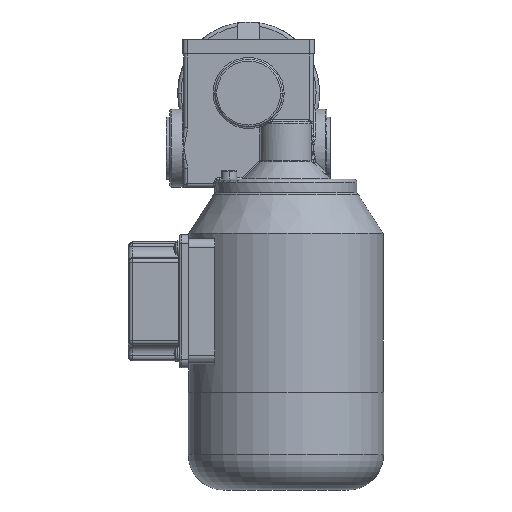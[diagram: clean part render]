
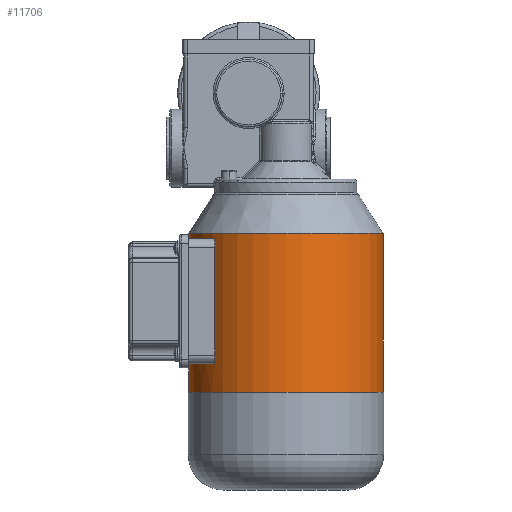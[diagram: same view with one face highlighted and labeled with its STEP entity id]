
A CAD part, left-side view. The second image highlights one B-rep face of the part: STEP entity #11706.
In plain terms, the highlighted cylindrical face has radius 54.75 mm (diameter 109.5 mm), a partial arc.
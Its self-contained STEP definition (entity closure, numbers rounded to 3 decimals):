
#201 = AXIS2_PLACEMENT_3D ( 'NONE', #26491, #17868, #13490 ) ;
#229 = VECTOR ( 'NONE', #13809, 1000. ) ;
#1415 = EDGE_CURVE ( 'NONE', #22039, #20823, #10087, .T. ) ;
#1458 = CARTESIAN_POINT ( 'NONE',  ( 71., 0., -54.75 ) ) ;
#2111 = CARTESIAN_POINT ( 'NONE',  ( 55., 0., 54.75 ) ) ;
#2238 = AXIS2_PLACEMENT_3D ( 'NONE', #5423, #28188, #3506 ) ;
#3078 = ORIENTED_EDGE ( 'NONE', *, *, #5369, .T. ) ;
#3216 = CARTESIAN_POINT ( 'NONE',  ( 144.5, 0., 54.75 ) ) ;
#3506 = DIRECTION ( 'NONE',  ( 0., 0., 1. ) ) ;
#3962 = LINE ( 'NONE', #10559, #18951 ) ;
#5369 = EDGE_CURVE ( 'NONE', #20823, #6374, #17945, .T. ) ;
#5423 = CARTESIAN_POINT ( 'NONE',  ( 55., 0., 0. ) ) ;
#5511 = CARTESIAN_POINT ( 'NONE',  ( 141.5, 37.384, -40. ) ) ;
#5657 = EDGE_LOOP ( 'NONE', ( #26221, #24831, #25477, #24786, #16775, #3078, #19221, #6390 ) ) ;
#6374 = VERTEX_POINT ( 'NONE', #12716 ) ;
#6390 = ORIENTED_EDGE ( 'NONE', *, *, #28250, .F. ) ;
#8192 = CARTESIAN_POINT ( 'NONE',  ( 27.393, 37.384, -40. ) ) ;
#8453 = EDGE_CURVE ( 'NONE', #27777, #6374, #9260, .T. ) ;
#9063 = AXIS2_PLACEMENT_3D ( 'NONE', #27890, #19553, #17217 ) ;
#9157 = DIRECTION ( 'NONE',  ( 0., -1., 0. ) ) ;
#9260 = CIRCLE ( 'NONE', #2238, 54.75 ) ;
#9924 = DIRECTION ( 'NONE',  ( 0., 0., 1. ) ) ;
#10087 = CIRCLE ( 'NONE', #27338, 54.75 ) ;
#10559 = CARTESIAN_POINT ( 'NONE',  ( 0., 0., 54.75 ) ) ;
#11706 = ADVANCED_FACE ( 'NONE', ( #14312 ), #25265, .T. ) ;
#12716 = CARTESIAN_POINT ( 'NONE',  ( 55., 0., -54.75 ) ) ;
#13490 = DIRECTION ( 'NONE',  ( 0., 0., -1. ) ) ;
#13716 = CARTESIAN_POINT ( 'NONE',  ( 0., 0., -54.75 ) ) ;
#13809 = DIRECTION ( 'NONE',  ( -1., 0., 0. ) ) ;
#14312 = FACE_OUTER_BOUND ( 'NONE', #5657, .T. ) ;
#14625 = DIRECTION ( 'NONE',  ( 1., 0., 0. ) ) ;
#15055 = LINE ( 'NONE', #8192, #23092 ) ;
#15589 = CARTESIAN_POINT ( 'NONE',  ( 71., 0., 0. ) ) ;
#15839 = AXIS2_PLACEMENT_3D ( 'NONE', #23228, #27146, #9924 ) ;
#16775 = ORIENTED_EDGE ( 'NONE', *, *, #1415, .T. ) ;
#17189 = CARTESIAN_POINT ( 'NONE',  ( 141.5, 0., -54.75 ) ) ;
#17217 = DIRECTION ( 'NONE',  ( 0., 0., 1. ) ) ;
#17868 = DIRECTION ( 'NONE',  ( 1., 0., 0. ) ) ;
#17935 = CIRCLE ( 'NONE', #9063, 54.75 ) ;
#17945 = LINE ( 'NONE', #13716, #20656 ) ;
#18036 = LINE ( 'NONE', #27383, #229 ) ;
#18786 = EDGE_CURVE ( 'NONE', #22039, #24865, #15055, .T. ) ;
#18951 = VECTOR ( 'NONE', #21229, 1000. ) ;
#19213 = EDGE_CURVE ( 'NONE', #26512, #26536, #17935, .T. ) ;
#19221 = ORIENTED_EDGE ( 'NONE', *, *, #8453, .F. ) ;
#19553 = DIRECTION ( 'NONE',  ( -1., 0., 0. ) ) ;
#19801 = EDGE_CURVE ( 'NONE', #26536, #23816, #18036, .T. ) ;
#20656 = VECTOR ( 'NONE', #24540, 1000. ) ;
#20823 = VERTEX_POINT ( 'NONE', #1458 ) ;
#21229 = DIRECTION ( 'NONE',  ( -1., 0., 0. ) ) ;
#22039 = VERTEX_POINT ( 'NONE', #25421 ) ;
#23092 = VECTOR ( 'NONE', #14625, 1000. ) ;
#23228 = CARTESIAN_POINT ( 'NONE',  ( 0., 0., 0. ) ) ;
#23816 = VERTEX_POINT ( 'NONE', #17189 ) ;
#24521 = DIRECTION ( 'NONE',  ( -1., 0., 0. ) ) ;
#24536 = CIRCLE ( 'NONE', #201, 54.75 ) ;
#24540 = DIRECTION ( 'NONE',  ( -1., 0., 0. ) ) ;
#24786 = ORIENTED_EDGE ( 'NONE', *, *, #18786, .F. ) ;
#24831 = ORIENTED_EDGE ( 'NONE', *, *, #19801, .T. ) ;
#24865 = VERTEX_POINT ( 'NONE', #5511 ) ;
#25265 = CYLINDRICAL_SURFACE ( 'NONE', #15839, 54.75 ) ;
#25421 = CARTESIAN_POINT ( 'NONE',  ( 71., 37.384, -40. ) ) ;
#25477 = ORIENTED_EDGE ( 'NONE', *, *, #26942, .T. ) ;
#25857 = CARTESIAN_POINT ( 'NONE',  ( 144.5, 0., -54.75 ) ) ;
#26221 = ORIENTED_EDGE ( 'NONE', *, *, #19213, .T. ) ;
#26491 = CARTESIAN_POINT ( 'NONE',  ( 141.5, 0., 0. ) ) ;
#26512 = VERTEX_POINT ( 'NONE', #3216 ) ;
#26536 = VERTEX_POINT ( 'NONE', #25857 ) ;
#26942 = EDGE_CURVE ( 'NONE', #23816, #24865, #24536, .T. ) ;
#27146 = DIRECTION ( 'NONE',  ( -1., 0., 0. ) ) ;
#27338 = AXIS2_PLACEMENT_3D ( 'NONE', #15589, #24521, #9157 ) ;
#27383 = CARTESIAN_POINT ( 'NONE',  ( 0., 0., -54.75 ) ) ;
#27777 = VERTEX_POINT ( 'NONE', #2111 ) ;
#27890 = CARTESIAN_POINT ( 'NONE',  ( 144.5, 0., 0. ) ) ;
#28188 = DIRECTION ( 'NONE',  ( -1., 0., 0. ) ) ;
#28250 = EDGE_CURVE ( 'NONE', #26512, #27777, #3962, .T. ) ;
